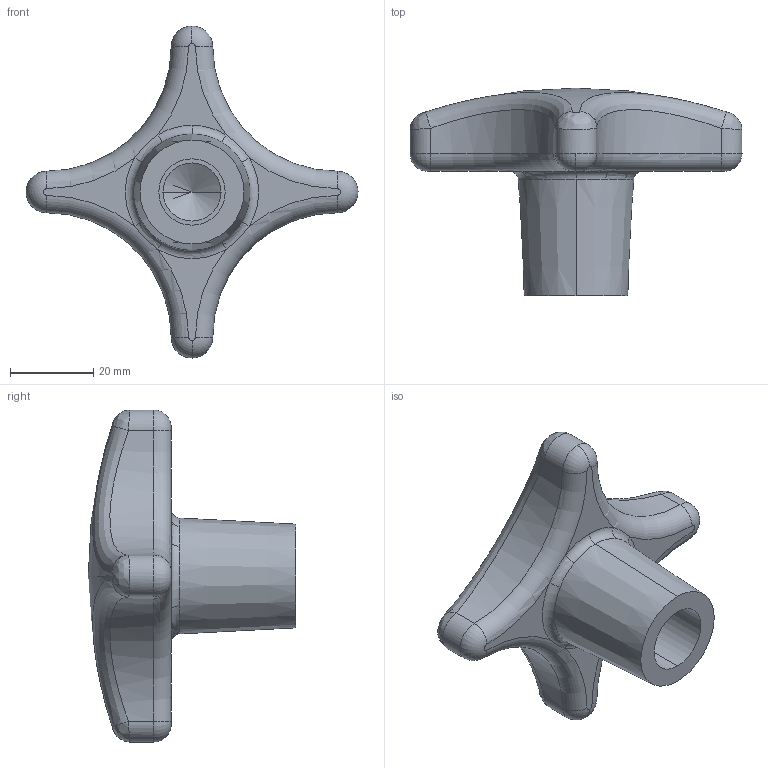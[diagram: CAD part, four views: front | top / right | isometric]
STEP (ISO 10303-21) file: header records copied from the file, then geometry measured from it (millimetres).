
FILE_DESCRIPTION (( 'STEP AP203' ), '1' );
FILE_NAME ('70040.W0880.step', '2019-01-26T19:34:59', ( '' ), ( '' ), 'SwSTEP 2.0', 'SolidWorks 2017', '' );
FILE_SCHEMA (( 'CONFIG_CONTROL_DESIGN' ));
Length unit declared in the file: millimetre
Products named in the file (1): 70040.W0880
Bounding box: 80 x 50 x 80 mm (x, y, z)
Volume: 47458 mm3; surface area: 12037.8 mm2
Topology: 1 solids, 1 shells, 52 faces, 120 edges, 70 vertices
Faces by surface type: torus 15, cylinder 13, bspline 12, plane 6, cone 4, sphere 2
Entity records: 2986 total; most frequent: CARTESIAN_POINT 1784, DIRECTION 247, ORIENTED_EDGE 236, EDGE_CURVE 118, AXIS2_PLACEMENT_3D 115, CIRCLE 74, VERTEX_POINT 70, EDGE_LOOP 54
